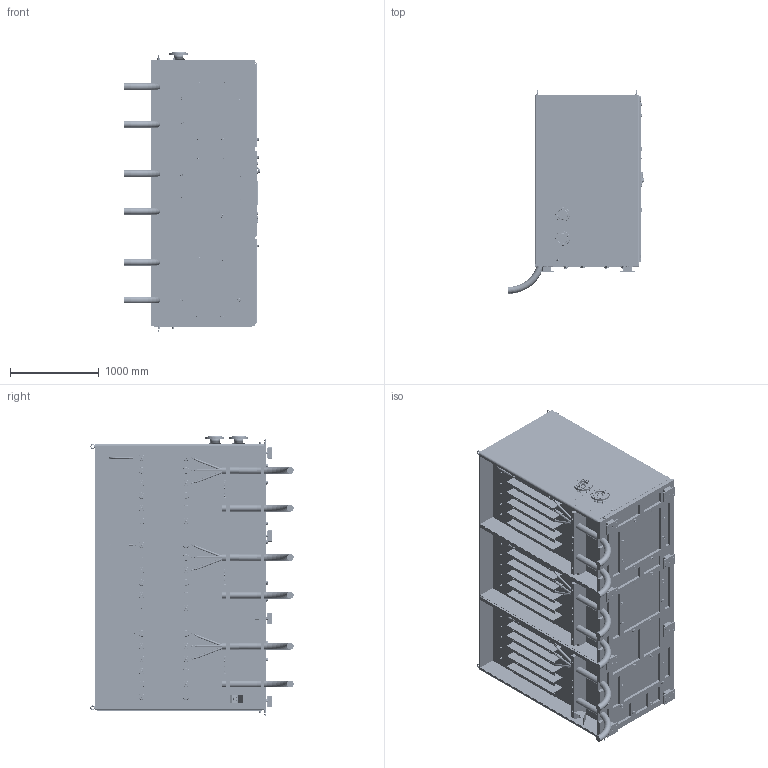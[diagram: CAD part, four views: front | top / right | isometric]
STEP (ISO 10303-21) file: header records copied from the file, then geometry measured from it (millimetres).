
FILE_DESCRIPTION (( 'STEP AP214' ), '1' );
FILE_NAME ('刲玾.434365.005.000_釓斨_3.STEP', '2025-08-19T12:26:36', ( '' ), ( '' ), 'SwSTEP 2.0', 'SolidWorks 2024', '' );
FILE_SCHEMA (( 'AUTOMOTIVE_DESIGN' ));
Products named in the file (1): ЛСПТ.434365.005.000_РБМВ_3
Bounding box: 1524.85 x 2290.79 x 3143.37 mm (x, y, z)
Surface area: 54366135 mm2 (no closed solid volume)
Topology: 0 solids, 647 shells, 2695 faces, 10129 edges, 7754 vertices
Faces by surface type: plane 1176, cylinder 902, torus 300, cone 241, bspline 67, sphere 9
Entity records: 140832 total; most frequent: CARTESIAN_POINT 58382, DIRECTION 17261, ORIENTED_EDGE 14092, EDGE_CURVE 10112, VERTEX_POINT 7751, AXIS2_PLACEMENT_3D 6465, VECTOR 4331, LINE 4331
